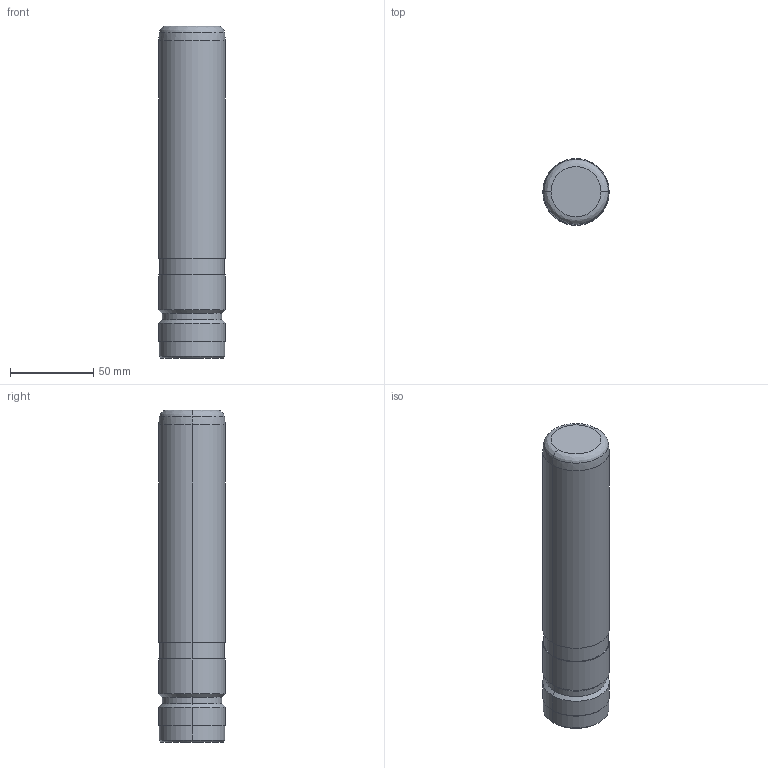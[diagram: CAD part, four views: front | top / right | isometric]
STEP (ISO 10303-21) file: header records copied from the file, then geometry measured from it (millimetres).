
FILE_DESCRIPTION((''),'2;1');
FILE_NAME('','2010-08-29T23:14:59+09:00',('misumi'),(''),'M/STEP i/f 1R2-14','CADmeister v5.1','');
FILE_SCHEMA(('AUTOMOTIVE_DESIGN'));
Length unit declared in the file: millimetre
Products named in the file (1): GPM40-200
Bounding box: 40 x 40 x 200 mm (x, y, z)
Volume: 248106.3 mm3; surface area: 27464.5 mm2
Topology: 1 solids, 1 shells, 27 faces, 52 edges, 30 vertices
Faces by surface type: cylinder 12, cone 6, plane 5, revolution 4
Entity records: 790 total; most frequent: DIRECTION 142, CARTESIAN_POINT 120, ORIENTED_EDGE 104, AXIS2_PLACEMENT_3D 60, EDGE_CURVE 52, CIRCLE 36, VERTEX_POINT 30, EDGE_LOOP 30
